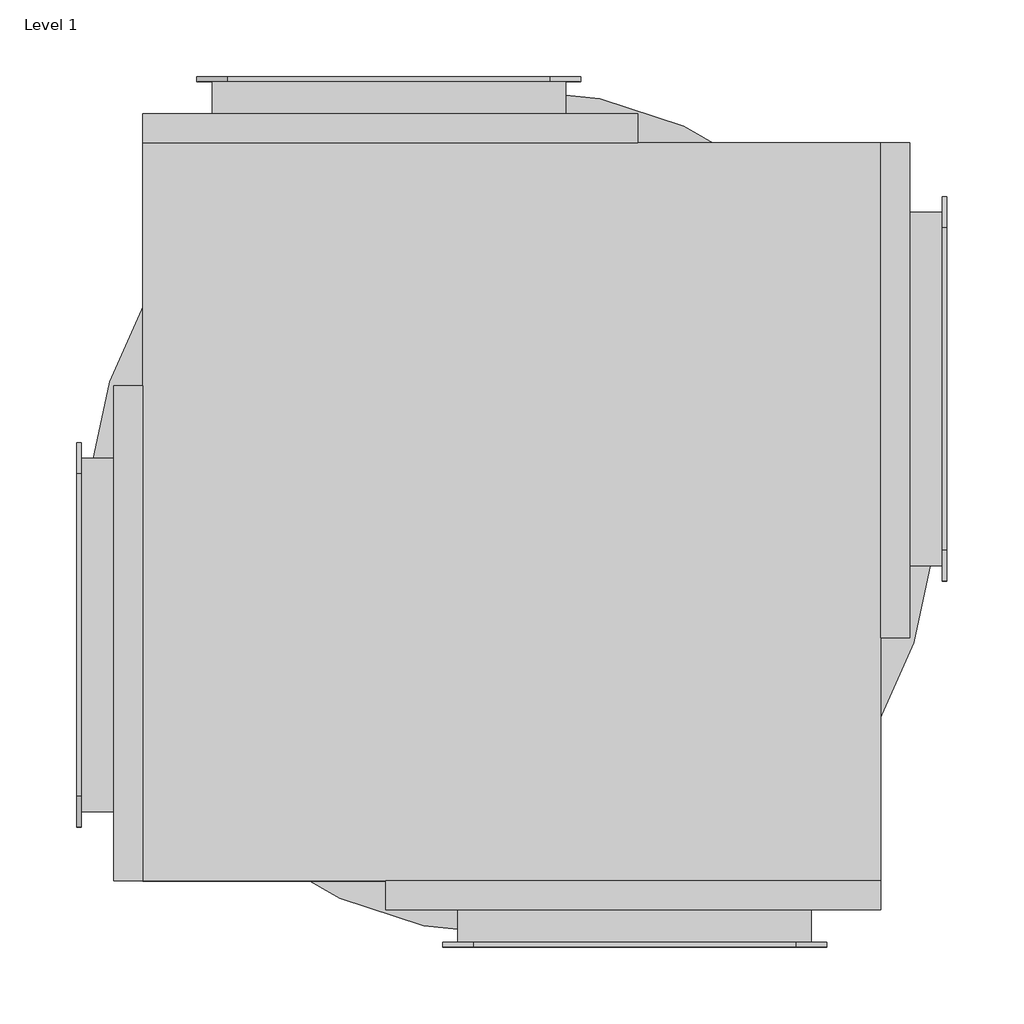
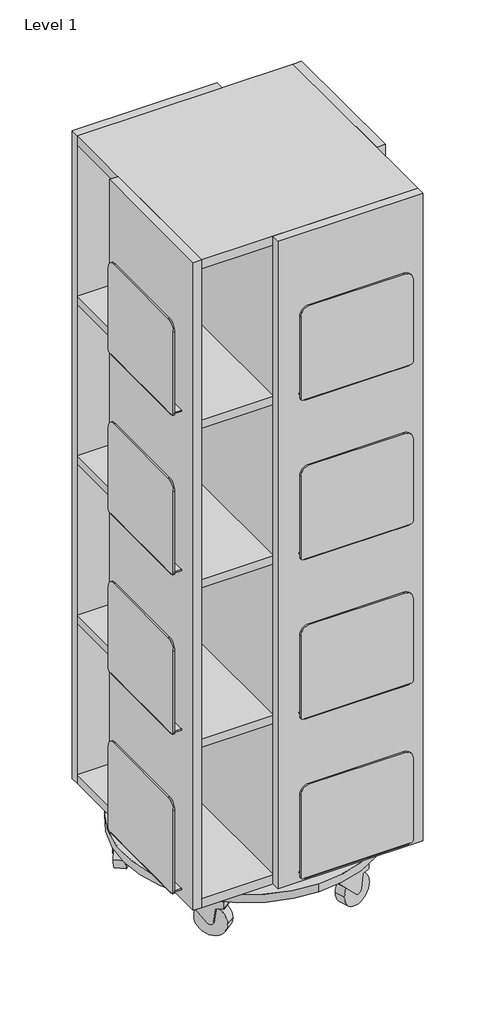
# One storey: 1 furniture element.
"""IFC4 building model written with IfcOpenShell, lengths in millimetres."""

from ifc_helpers import new_model, si_unit, origin, place, context, project, spatial, transform, mapped, element, save
from components import furniture_84b8f935, furniture_8693d7e6, furniture_a3d0dc02

model = new_model("IFC4")

# Units and contexts
model_context = context("Model", 3, world=origin())
ifc_project = project(units=[si_unit("LENGTHUNIT", "METRE", prefix="MILLI")], contexts=[model_context])

# Site, building, storey
site = spatial("IfcSite", under=ifc_project)
building = spatial("IfcBuilding", under=site)
storey = spatial("IfcBuildingStorey", under=building, Name="Level 1", Elevation=0.0)

# Furniture
placement = place(None, origin())
furniture_shape = furniture_84b8f935(model_context)
furniture_2_shape = furniture_8693d7e6(model_context)
furniture_3_shape = furniture_a3d0dc02(model_context)
element("IfcFurniture", 1, ObjectType="BK Library - Linnea : BK Library - Linnea", at=placement, inside=storey, context=model_context, shape_type="MappedRepresentation", body=[
    mapped(furniture_shape, transform((-2769.7402318, 2197.9079464, -688.6569781), x_axis=(0.0, 1.0, 0.0), y_axis=(-1.0, 0.0, 0.0), z_axis=(0.0, 0.0, 1.0))),
    mapped(furniture_2_shape, transform((-2769.7402318, 2197.9079464, -688.6569781), x_axis=(0.0, 1.0, 0.0), y_axis=(-1.0, 0.0, 0.0), z_axis=(0.0, 0.0, 1.0))),
    mapped(furniture_3_shape, transform((-2769.7402318, 2197.9079464, -688.6569781), x_axis=(0.0, 1.0, 0.0), y_axis=(-1.0, 0.0, 0.0), z_axis=(0.0, 0.0, 1.0))),
])

save(model, "model.ifc")
